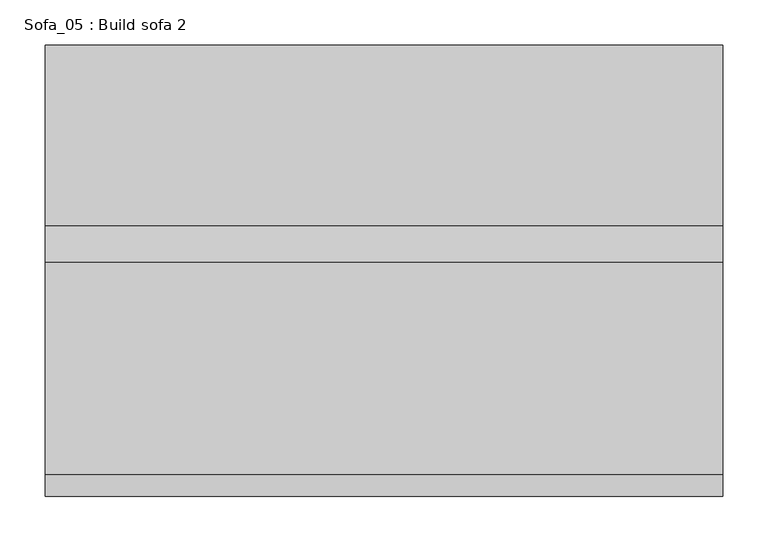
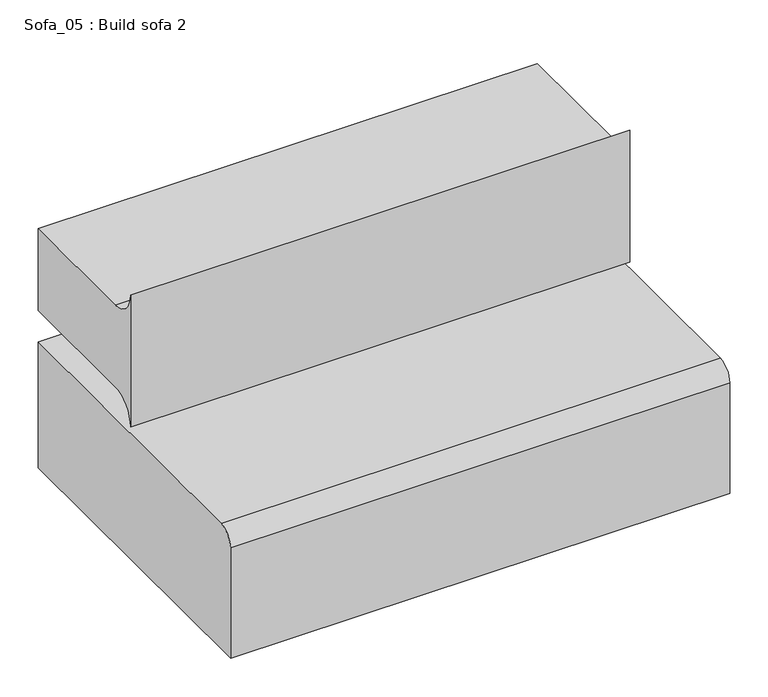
"""IFC4 building model written with IfcOpenShell, lengths in millimetres: furniture geometry, Sofa_05 : Build sofa 2."""

from ifc_helpers import new_model, si_unit, point, frame, frame_2d, origin, place, context, project, spatial, polyline, circle_curve, trimmed, segment, composite_curve, outline, extrude, source, transform, mapped, element, save
from ifc_brep_helpers import plane_surface, revolved_surface, advanced_brep


def sofa_05_build_sofa_2_16d79366(model_context):
    return source(origin(), model_context, "Body", "SolidModel", [
        extrude(outline(composite_curve([segment(polyline([(250.0, 250.0), (-250.0, 250.0), (-250.0, 425.6243914)]), True, "CONTINUOUS"), segment(trimmed(circle_curve(frame_2d((-225.6243914, 425.6243914)), 24.3756086), [point((-250.0, 425.6243914))], [point((-225.6243914, 450.0))], False, "CARTESIAN"), True, "CONTINUOUS"), segment(polyline([(-225.6243914, 450.0), (250.0, 450.0), (250.0, 250.0)]), True, "CONTINUOUS")], self_intersect=False)), frame((-375.0, 0.0, 0.0), z_axis=(1.0, 0.0, 0.0), x_axis=(0.0, 1.0, 0.0)), (0.0, 0.0, 1.0), 750.0),
        advanced_brep(
        [(375.0, 250.0, 630.0), (375.0, 50.0, 630.0), (375.0, 10.0, 670.0), (375.0, 10.0, 460.0), (375.0, 50.0, 500.0), (375.0, 250.0, 500.0), (-375.0, 250.0, 630.0), (-375.0, 250.0, 500.0), (-375.0, 50.0, 500.0), (-375.0, 10.0, 460.0), (-375.0, 10.0, 670.0), (-375.0, 50.0, 630.0)],
        [
            (0, 1),
            (1, 2, circle_curve(frame((375.0, 50.0, 670.0), z_axis=(-1.0, 0.0, 0.0), x_axis=(0.0, 1.0, 0.0)), 40.0)),
            (2, 3),
            (3, 4, circle_curve(frame((375.0, 50.0, 460.0), z_axis=(-1.0, 0.0, 0.0), x_axis=(0.0, 1.0, 0.0)), 40.0)),
            (4, 5),
            (5, 0),
            (6, 7),
            (7, 8),
            (8, 9, circle_curve(frame((-375.0, 50.0, 460.0), z_axis=(1.0, 0.0, 0.0), x_axis=(0.0, 1.0, 0.0)), 40.0)),
            (9, 10),
            (10, 11, circle_curve(frame((-375.0, 50.0, 670.0), z_axis=(1.0, 0.0, 0.0), x_axis=(0.0, 1.0, 0.0)), 40.0)),
            (11, 6),
            (5, 7),
            (6, 0),
            (4, 8),
            (2, 10),
            (9, 3),
            (11, 1),
        ],
        [
            plane_surface(frame((375.0, 50.0, 630.0), z_axis=(1.0, 0.0, 0.0), x_axis=(0.0, -1.0, 0.0))),
            plane_surface(frame((-375.0, 50.0, 630.0), z_axis=(-1.0, 0.0, 0.0), x_axis=(0.0, 1.0, 0.0))),
            plane_surface(frame((375.0, 250.0, 500.0), z_axis=(0.0, 1.0, 0.0), x_axis=(-1.0, 0.0, 0.0))),
            plane_surface(frame((375.0, 50.0, 500.0), z_axis=(0.0, 0.0, -1.0), x_axis=(-1.0, 0.0, 0.0))),
            plane_surface(frame((375.0, 10.0, 670.0), z_axis=(0.0, -1.0, 0.0), x_axis=(-1.0, 0.0, 0.0))),
            plane_surface(frame((375.0, 250.0, 630.0), z_axis=(0.0, 0.0, 1.0), x_axis=(-1.0, 0.0, 0.0))),
            revolved_surface(polyline([(-375.0, 90.0, 460.0), (375.0, 90.0, 460.0)]), (-375.0, 50.0, 460.0), (-1.0, 0.0, 0.0)),
            revolved_surface(polyline([(-375.0, 90.0, 670.0), (375.0, 90.0, 670.0)]), (-375.0, 50.0, 670.0), (-1.0, 0.0, 0.0)),
        ],
        [
            (0, [[1, 2, 3, 4, 5, 6]]),
            (1, [[7, 8, 9, 10, 11, 12]]),
            (2, [[-6, 13, -7, 14]]),
            (3, [[-5, 15, -8, -13]]),
            (4, [[-3, 16, -10, 17]]),
            (5, [[-1, -14, -12, 18]]),
            (6, [[-4, -17, -9, -15]]),
            (7, [[-2, -18, -11, -16]]),
        ],
    ),
    ])


if __name__ == "__main__":
    model = new_model("IFC4")
    model_context = context("Model", 3, world=origin())
    ifc_project = project(units=[si_unit("LENGTHUNIT", "METRE", prefix="MILLI")], contexts=[model_context])
    site = spatial("IfcSite", under=ifc_project)
    building = spatial("IfcBuilding", under=site)
    placement = place(None, origin())
    sofa_05_build_sofa_2_shape = sofa_05_build_sofa_2_16d79366(model_context)
    element("IfcFurniture", 1, ObjectType="Sofa_05 : Build sofa 2", at=placement, inside=building, context=model_context, shape_type="MappedRepresentation", body=[
        mapped(sofa_05_build_sofa_2_shape, transform((0.0, 0.0, 0.0), x_axis=(1.0, 0.0, 0.0), y_axis=(0.0, 1.0, 0.0), z_axis=(0.0, 0.0, 1.0))),
    ])
    save(model, "model.ifc")
